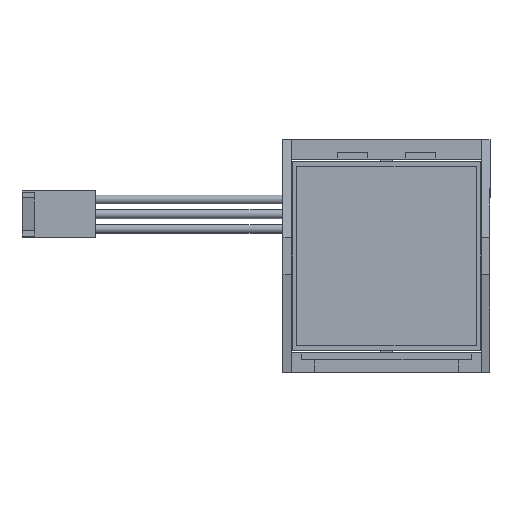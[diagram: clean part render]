
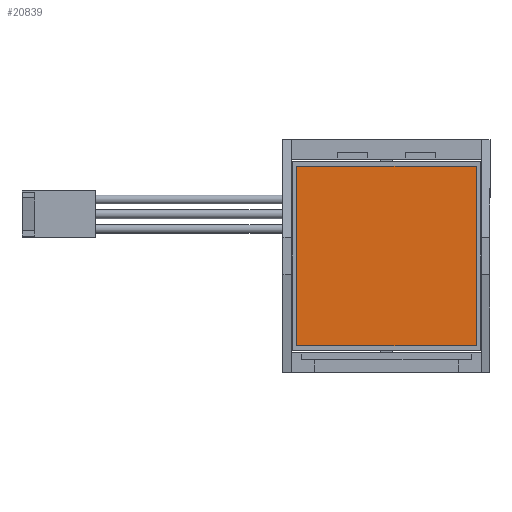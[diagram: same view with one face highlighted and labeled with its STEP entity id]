
A CAD part, front view. The second image highlights one B-rep face of the part: STEP entity #20839.
In plain terms, the highlighted planar face has unit normal (0, -1, 0).
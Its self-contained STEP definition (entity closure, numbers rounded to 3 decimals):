
#506 = CARTESIAN_POINT ( 'NONE',  ( -15.5, -0.127, -15.5 ) ) ;
#2393 = LINE ( 'NONE', #23341, #63705 ) ;
#3055 = CARTESIAN_POINT ( 'NONE',  ( -15.5, -0.127, -15.5 ) ) ;
#4680 = CARTESIAN_POINT ( 'NONE',  ( 15.5, -0.127, 15.5 ) ) ;
#5667 = DIRECTION ( 'NONE',  ( 0., 0., -1. ) ) ;
#6710 = VERTEX_POINT ( 'NONE', #4680 ) ;
#10008 = CARTESIAN_POINT ( 'NONE',  ( -15.5, -0.127, -15.5 ) ) ;
#10854 = ORIENTED_EDGE ( 'NONE', *, *, #43051, .F. ) ;
#11310 = EDGE_CURVE ( 'NONE', #6710, #40383, #22064, .T. ) ;
#16469 = EDGE_CURVE ( 'NONE', #40383, #37765, #57664, .T. ) ;
#19294 = VECTOR ( 'NONE', #31268, 1000. ) ;
#20839 = ADVANCED_FACE ( 'NONE', ( #23096 ), #33221, .F. ) ;
#21810 = EDGE_CURVE ( 'NONE', #41810, #6710, #2393, .T. ) ;
#22064 = LINE ( 'NONE', #43315, #59747 ) ;
#22265 = VECTOR ( 'NONE', #66780, 1000. ) ;
#23096 = FACE_OUTER_BOUND ( 'NONE', #65785, .T. ) ;
#23341 = CARTESIAN_POINT ( 'NONE',  ( -15.5, -0.127, 15.5 ) ) ;
#28608 = ORIENTED_EDGE ( 'NONE', *, *, #11310, .F. ) ;
#28674 = ORIENTED_EDGE ( 'NONE', *, *, #16469, .F. ) ;
#31268 = DIRECTION ( 'NONE',  ( -1., 0., 0. ) ) ;
#31405 = CARTESIAN_POINT ( 'NONE',  ( 15.5, -0.127, -15.5 ) ) ;
#33221 = PLANE ( 'NONE',  #66888 ) ;
#37765 = VERTEX_POINT ( 'NONE', #506 ) ;
#40383 = VERTEX_POINT ( 'NONE', #31405 ) ;
#41810 = VERTEX_POINT ( 'NONE', #67719 ) ;
#43051 = EDGE_CURVE ( 'NONE', #37765, #41810, #50776, .T. ) ;
#43315 = CARTESIAN_POINT ( 'NONE',  ( 15.5, -0.127, -15.5 ) ) ;
#44993 = DIRECTION ( 'NONE',  ( 0., 1., 0. ) ) ;
#50776 = LINE ( 'NONE', #3055, #22265 ) ;
#56689 = ORIENTED_EDGE ( 'NONE', *, *, #21810, .F. ) ;
#56777 = CARTESIAN_POINT ( 'NONE',  ( -15.5, -0.127, 15.5 ) ) ;
#57116 = DIRECTION ( 'NONE',  ( 0., 0., 1. ) ) ;
#57664 = LINE ( 'NONE', #10008, #19294 ) ;
#59747 = VECTOR ( 'NONE', #5667, 1000. ) ;
#60226 = DIRECTION ( 'NONE',  ( 1., 0., 0. ) ) ;
#63705 = VECTOR ( 'NONE', #60226, 1000. ) ;
#65785 = EDGE_LOOP ( 'NONE', ( #10854, #28674, #28608, #56689 ) ) ;
#66780 = DIRECTION ( 'NONE',  ( 0., 0., 1. ) ) ;
#66888 = AXIS2_PLACEMENT_3D ( 'NONE', #56777, #44993, #57116 ) ;
#67719 = CARTESIAN_POINT ( 'NONE',  ( -15.5, -0.127, 15.5 ) ) ;
